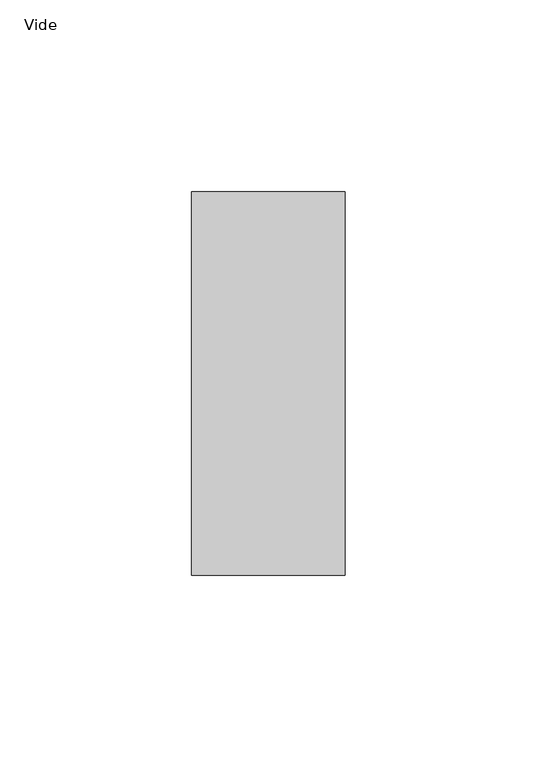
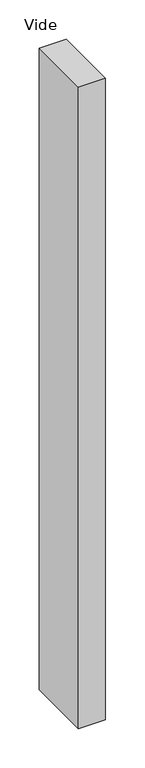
"""IFC4 building model written with IfcOpenShell, lengths in millimetres: plate geometry, Panneau système vide : Vide."""

from ifc_helpers import new_model, si_unit, origin, origin_with_axes, place, context, project, spatial, polyline, outline, extrude, source, transform, mapped, element, save


def vide_76a475b9(model_context):
    return source(origin(), model_context, "Body", "SweptSolid", [
        extrude(outline(polyline([(19.9999998, 50.0), (-19.9999998, 50.0), (-19.9999998, 150.0), (19.9999998, 150.0), (19.9999998, 50.0)])), origin_with_axes(), (0.0, 0.0, 1.0), 1000.0),
    ])


if __name__ == "__main__":
    model = new_model("IFC4")
    model_context = context("Model", 3, world=origin())
    ifc_project = project(units=[si_unit("LENGTHUNIT", "METRE", prefix="MILLI")], contexts=[model_context])
    site = spatial("IfcSite", under=ifc_project)
    building = spatial("IfcBuilding", under=site)
    placement = place(None, origin())
    vide_shape = vide_76a475b9(model_context)
    element("IfcPlate", 1, ObjectType="Panneau système vide : Vide", at=placement, inside=building, context=model_context, shape_type="MappedRepresentation", body=[
        mapped(vide_shape, transform((0.0, 0.0, 0.0), x_axis=(1.0, 0.0, 0.0), y_axis=(0.0, 1.0, 0.0), z_axis=(0.0, 0.0, 1.0))),
    ])
    save(model, "model.ifc")
